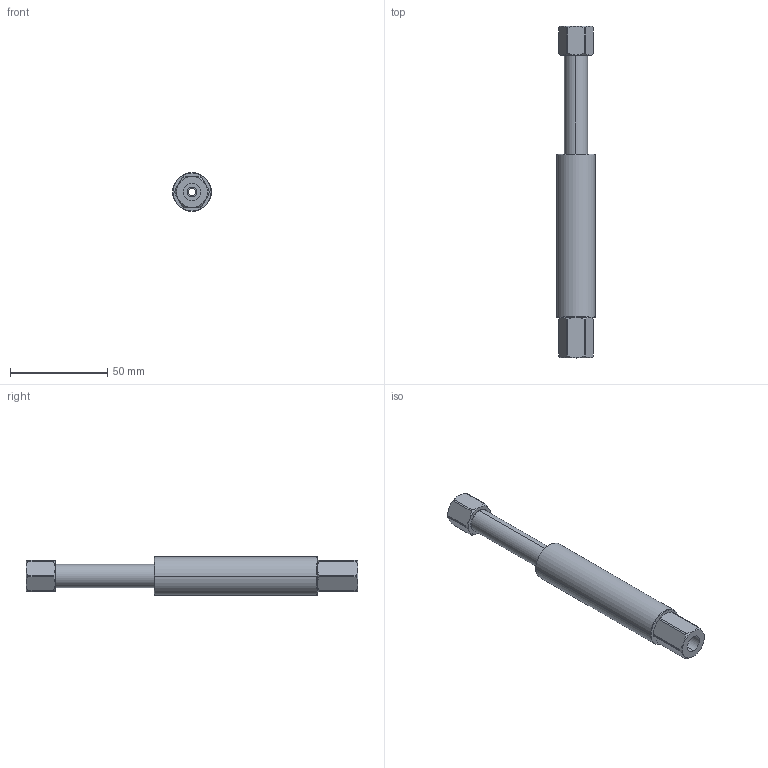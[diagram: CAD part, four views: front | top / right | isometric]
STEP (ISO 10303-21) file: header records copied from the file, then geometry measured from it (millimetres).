
FILE_DESCRIPTION (( 'STEP AP214' ), '1' );
FILE_NAME ('VFR2051-G18.STEP', '2019-11-15T06:06:04', ( '微软用户' ), ( '微软中国' ), 'SwSTEP 2.0', 'SolidWorks 2016', '' );
FILE_SCHEMA (( 'AUTOMOTIVE_DESIGN' ));
Length unit declared in the file: millimetre
Products named in the file (1): VFR2051-G18
Bounding box: 20 x 171 x 20 mm (x, y, z)
Volume: 33826.5 mm3; surface area: 19127.4 mm2
Topology: 3 solids, 3 shells, 143 faces, 327 edges, 196 vertices
Faces by surface type: cone 64, cylinder 51, plane 24, bspline 4
Entity records: 6257 total; most frequent: CARTESIAN_POINT 1399, DIRECTION 719, ORIENTED_EDGE 654, EDGE_CURVE 327, AXIS2_PLACEMENT_3D 308, VERTEX_POINT 196, CIRCLE 168, EDGE_LOOP 155
